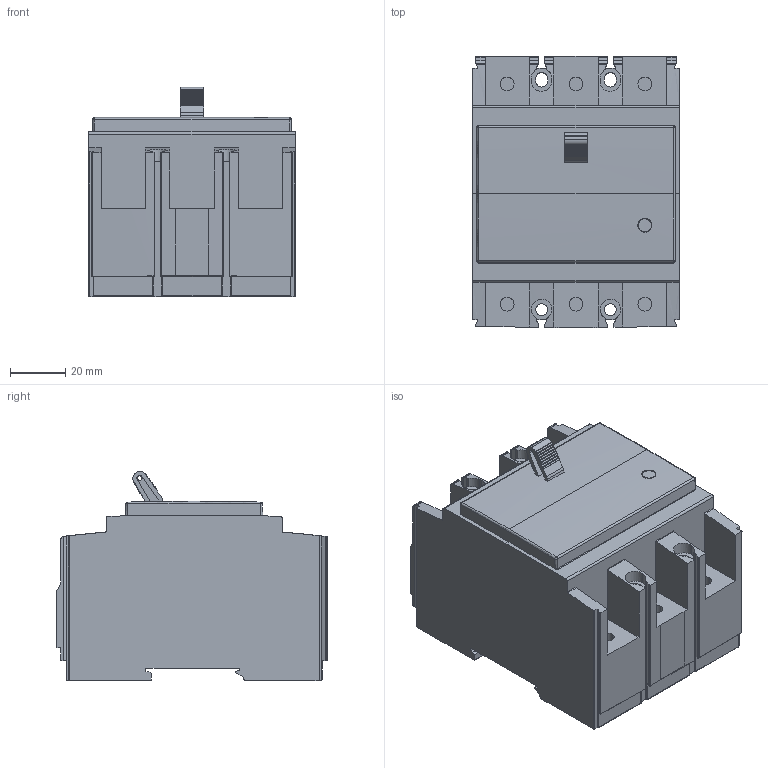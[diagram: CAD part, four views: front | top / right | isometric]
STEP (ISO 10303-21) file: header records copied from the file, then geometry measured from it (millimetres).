
FILE_DESCRIPTION (( 'STEP AP203' ), '1' );
FILE_NAME ('BE Type 3P (50A 捞窍).STEP', '2018-01-04T00:38:21', ( '' ), ( '' ), 'SwSTEP 2.0', 'SolidWorks 2015', '' );
FILE_SCHEMA (( 'CONFIG_CONTROL_DESIGN' ));
Length unit declared in the file: millimetre
Products named in the file (1): BE Type 3P (50A 捞窍)
Bounding box: 75 x 98.47 x 76.11 mm (x, y, z)
Volume: 383245.7 mm3; surface area: 48345.4 mm2
Topology: 1 solids, 1 shells, 398 faces, 1147 edges, 760 vertices
Faces by surface type: plane 241, cylinder 137, bspline 12, sphere 4, torus 4
Entity records: 13838 total; most frequent: CARTESIAN_POINT 3274, ORIENTED_EDGE 2294, DIRECTION 2095, EDGE_CURVE 1147, LINE 773, VECTOR 773, VERTEX_POINT 760, AXIS2_PLACEMENT_3D 661
